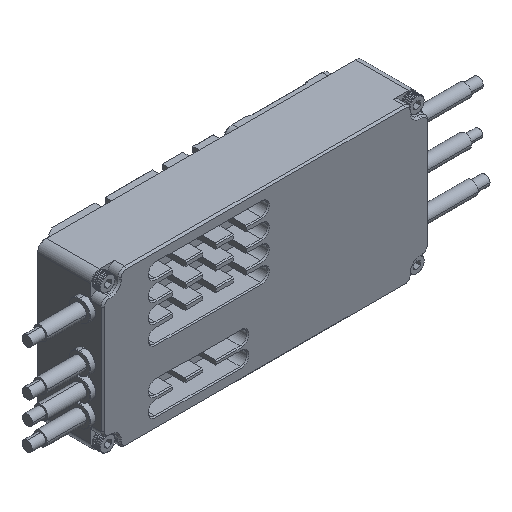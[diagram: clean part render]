
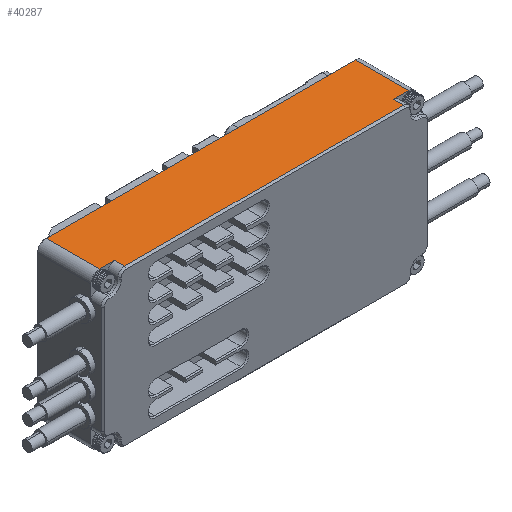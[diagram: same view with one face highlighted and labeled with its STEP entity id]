
A CAD part, isometric view. The second image highlights one B-rep face of the part: STEP entity #40287.
In plain terms, the highlighted planar face has unit normal (0, 0, 1).
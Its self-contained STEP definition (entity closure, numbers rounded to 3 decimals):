
#652=DIRECTION('',(1.,0.,0.));
#653=VECTOR('',#652,4.5);
#654=CARTESIAN_POINT('',(41.25,-7.3,23.));
#655=LINE('',#654,#653);
#668=DIRECTION('',(1.,0.,0.));
#669=VECTOR('',#668,4.5);
#670=CARTESIAN_POINT('',(-45.75,-7.3,23.));
#671=LINE('',#670,#669);
#7999=DIRECTION('',(0.,1.,0.));
#8000=VECTOR('',#7999,15.7);
#8001=CARTESIAN_POINT('',(45.75,-7.3,23.));
#8002=LINE('',#8001,#8000);
#8008=DIRECTION('',(0.,1.,0.));
#8009=VECTOR('',#8008,3.);
#8010=CARTESIAN_POINT('',(41.25,-10.3,23.));
#8011=LINE('',#8010,#8009);
#8012=DIRECTION('',(-1.,0.,0.));
#8013=VECTOR('',#8012,82.5);
#8014=CARTESIAN_POINT('',(41.25,-10.3,23.));
#8015=LINE('',#8014,#8013);
#8016=DIRECTION('',(0.,-1.,0.));
#8017=VECTOR('',#8016,3.);
#8018=CARTESIAN_POINT('',(-41.25,-7.3,23.));
#8019=LINE('',#8018,#8017);
#8020=DIRECTION('',(1.,0.,0.));
#8021=VECTOR('',#8020,91.5);
#8022=CARTESIAN_POINT('',(-45.75,8.4,23.));
#8023=LINE('',#8022,#8021);
#9770=DIRECTION('',(0.,-1.,0.));
#9771=VECTOR('',#9770,15.7);
#9772=CARTESIAN_POINT('',(-45.75,8.4,23.));
#9773=LINE('',#9772,#9771);
#23118=CARTESIAN_POINT('',(-45.75,8.4,23.));
#23120=VERTEX_POINT('',#23118);
#23123=CARTESIAN_POINT('',(45.75,8.4,23.));
#23124=VERTEX_POINT('',#23123);
#24391=CARTESIAN_POINT('',(41.25,-10.3,
23.));
#24392=CARTESIAN_POINT('',(-41.25,-10.3,
23.));
#24393=VERTEX_POINT('',#24391);
#24394=VERTEX_POINT('',#24392);
#24469=CARTESIAN_POINT('',(41.25,-7.3,23.));
#24470=VERTEX_POINT('',#24469);
#24471=CARTESIAN_POINT('',(-41.25,-7.3,23.));
#24472=VERTEX_POINT('',#24471);
#24487=CARTESIAN_POINT('',(-45.75,-7.3,23.));
#24488=VERTEX_POINT('',#24487);
#24489=CARTESIAN_POINT('',(45.75,-7.3,23.));
#24490=VERTEX_POINT('',#24489);
#40268=CARTESIAN_POINT('',(-48.25,0.,23.));
#40269=DIRECTION('',(0.,0.,1.));
#40270=DIRECTION('',(1.,0.,0.));
#40271=AXIS2_PLACEMENT_3D('',#40268,#40269,#40270);
#40272=PLANE('',#40271);
#40273=ORIENTED_EDGE('',*,*,#40262,.F.);
#40274=ORIENTED_EDGE('',*,*,#30075,.F.);
#40276=ORIENTED_EDGE('',*,*,#40275,.F.);
#40278=ORIENTED_EDGE('',*,*,#40277,.T.);
#40280=ORIENTED_EDGE('',*,*,#40279,.F.);
#40281=ORIENTED_EDGE('',*,*,#30105,.F.);
#40283=ORIENTED_EDGE('',*,*,#40282,.F.);
#40284=ORIENTED_EDGE('',*,*,#40223,.T.);
#40285=EDGE_LOOP('',(#40273,#40274,#40276,#40278,#40280,#40281,#40283,#40284));
#40286=FACE_OUTER_BOUND('',#40285,.F.);
#40287=ADVANCED_FACE('',(#40286),#40272,.T.);
#30075=EDGE_CURVE('',#24470,#24490,#655,.T.);
#30105=EDGE_CURVE('',#24488,#24472,#671,.T.);
#40223=EDGE_CURVE('',#23120,#23124,#8023,.T.);
#40262=EDGE_CURVE('',#24490,#23124,#8002,.T.);
#40275=EDGE_CURVE('',#24393,#24470,#8011,.T.);
#40277=EDGE_CURVE('',#24393,#24394,#8015,.T.);
#40279=EDGE_CURVE('',#24472,#24394,#8019,.T.);
#40282=EDGE_CURVE('',#23120,#24488,#9773,.T.);
